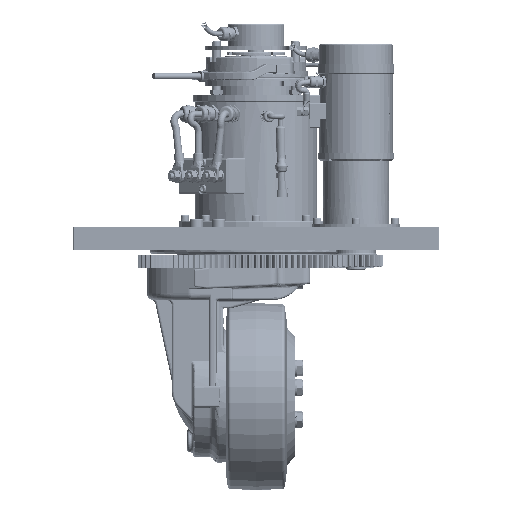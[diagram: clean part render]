
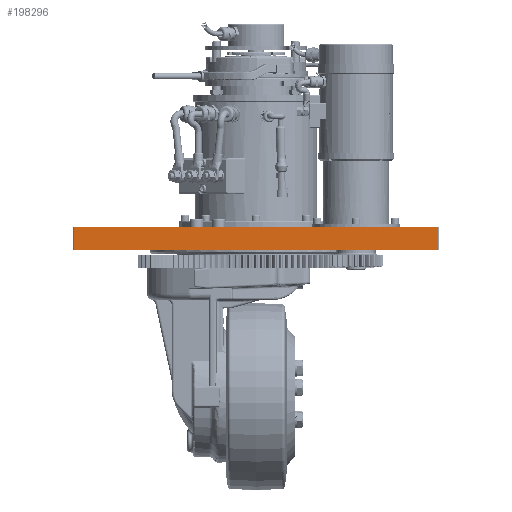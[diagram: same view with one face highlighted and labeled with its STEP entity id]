
A CAD part, left-side view. The second image highlights one B-rep face of the part: STEP entity #198296.
In plain terms, the highlighted planar face has unit normal (-1, 0, 0).
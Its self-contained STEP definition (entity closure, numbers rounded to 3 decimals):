
#14750=LINE('',#335550,#31527);
#14761=LINE('',#335591,#31538);
#14762=LINE('',#335594,#31539);
#14763=LINE('',#335595,#31540);
#31527=VECTOR('',#260299,10.);
#31538=VECTOR('',#260336,10.);
#31539=VECTOR('',#260339,10.);
#31540=VECTOR('',#260340,10.);
#44095=PLANE('',#215313);
#53673=FACE_OUTER_BOUND('',#64942,.T.);
#64942=EDGE_LOOP('',(#163783,#163784,#163785,#163786));
#92656=VERTEX_POINT('',#335547);
#92657=VERTEX_POINT('',#335549);
#92674=VERTEX_POINT('',#335589);
#92675=VERTEX_POINT('',#335593);
#117617=EDGE_CURVE('',#92657,#92656,#14750,.T.);
#117638=EDGE_CURVE('',#92674,#92656,#14761,.T.);
#117639=EDGE_CURVE('',#92674,#92675,#14762,.T.);
#117640=EDGE_CURVE('',#92657,#92675,#14763,.T.);
#163783=ORIENTED_EDGE('',*,*,#117638,.F.);
#163784=ORIENTED_EDGE('',*,*,#117639,.T.);
#163785=ORIENTED_EDGE('',*,*,#117640,.F.);
#163786=ORIENTED_EDGE('',*,*,#117617,.T.);
#198296=ADVANCED_FACE('',(#53673),#44095,.T.);
#215313=AXIS2_PLACEMENT_3D('',#335592,#260337,#260338);
#260299=DIRECTION('',(0.,-1.,0.));
#260336=DIRECTION('',(0.,0.,-1.));
#260337=DIRECTION('center_axis',(-1.,0.,0.));
#260338=DIRECTION('ref_axis',(0.,0.,
-1.));
#260339=DIRECTION('',(0.,1.,0.));
#260340=DIRECTION('',(0.,0.,1.));
#335547=CARTESIAN_POINT('',(-185.833,-238.056,21.498));
#335549=CARTESIAN_POINT('',(-185.833,207.944,21.498));
#335550=CARTESIAN_POINT('',(-185.833,-127.556,21.498));
#335589=CARTESIAN_POINT('',(-185.833,-238.056,49.998));
#335591=CARTESIAN_POINT('',(-185.833,-238.056,20.498));
#335592=CARTESIAN_POINT('Origin',(-185.833,-240.056,20.498));
#335593=CARTESIAN_POINT('',(-185.833,207.944,49.998));
#335594=CARTESIAN_POINT('',(-185.833,-240.056,49.998));
#335595=CARTESIAN_POINT('',(-185.833,207.944,20.498));
